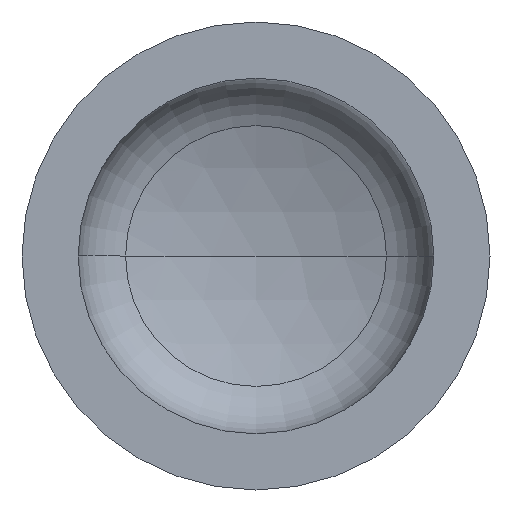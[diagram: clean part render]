
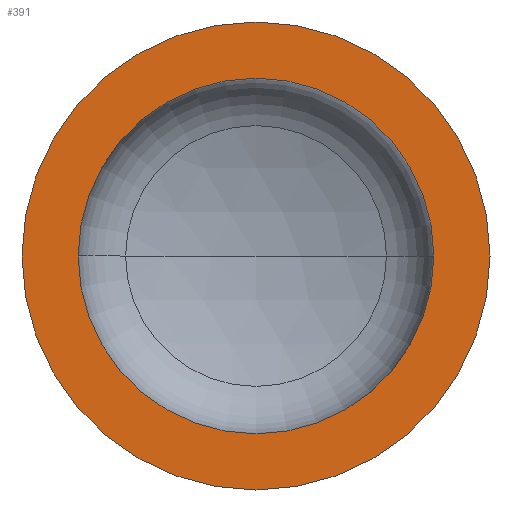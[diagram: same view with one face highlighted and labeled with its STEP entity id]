
A CAD part, front view. The second image highlights one B-rep face of the part: STEP entity #391.
In plain terms, the highlighted planar face has unit normal (0, -1, 0).
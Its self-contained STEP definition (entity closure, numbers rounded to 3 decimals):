
#3 = ORIENTED_EDGE ( 'NONE', *, *, #352, .F. ) ;
#6 = AXIS2_PLACEMENT_3D ( 'NONE', #357, #218, #306 ) ;
#10 = EDGE_LOOP ( 'NONE', ( #95, #48 ) ) ;
#21 = AXIS2_PLACEMENT_3D ( 'NONE', #299, #237, #158 ) ;
#22 = VERTEX_POINT ( 'NONE', #365 ) ;
#37 = ORIENTED_EDGE ( 'NONE', *, *, #122, .F. ) ;
#48 = ORIENTED_EDGE ( 'NONE', *, *, #119, .T. ) ;
#52 = EDGE_LOOP ( 'NONE', ( #37, #3 ) ) ;
#60 = CIRCLE ( 'NONE', #6, 450. ) ;
#71 = VERTEX_POINT ( 'NONE', #250 ) ;
#89 = VERTEX_POINT ( 'NONE', #235 ) ;
#95 = ORIENTED_EDGE ( 'NONE', *, *, #384, .T. ) ;
#99 = AXIS2_PLACEMENT_3D ( 'NONE', #351, #350, #345 ) ;
#103 = AXIS2_PLACEMENT_3D ( 'NONE', #205, #207, #341 ) ;
#116 = VERTEX_POINT ( 'NONE', #331 ) ;
#119 = EDGE_CURVE ( 'NONE', #116, #22, #313, .T. ) ;
#122 = EDGE_CURVE ( 'NONE', #71, #89, #257, .T. ) ;
#158 = DIRECTION ( 'NONE',  ( 1., 0., 0. ) ) ;
#168 = DIRECTION ( 'NONE',  ( 0., 1., 0. ) ) ;
#205 = CARTESIAN_POINT ( 'NONE',  ( 0., 0., 0. ) ) ;
#207 = DIRECTION ( 'NONE',  ( 0., -1., 0. ) ) ;
#218 = DIRECTION ( 'NONE',  ( 0., -1., 0. ) ) ;
#235 = CARTESIAN_POINT ( 'NONE',  ( -342., 0., 0. ) ) ;
#237 = DIRECTION ( 'NONE',  ( 0., -1., 0. ) ) ;
#250 = CARTESIAN_POINT ( 'NONE',  ( 342., 0., 0. ) ) ;
#254 = FACE_OUTER_BOUND ( 'NONE', #10, .T. ) ;
#257 = CIRCLE ( 'NONE', #99, 342. ) ;
#258 = FACE_BOUND ( 'NONE', #52, .T. ) ;
#279 = PLANE ( 'NONE',  #317 ) ;
#299 = CARTESIAN_POINT ( 'NONE',  ( 0., 0., 0. ) ) ;
#306 = DIRECTION ( 'NONE',  ( 1., 0., 0. ) ) ;
#313 = CIRCLE ( 'NONE', #103, 450. ) ;
#317 = AXIS2_PLACEMENT_3D ( 'NONE', #397, #168, #329 ) ;
#329 = DIRECTION ( 'NONE',  ( -1., 0., 0. ) ) ;
#331 = CARTESIAN_POINT ( 'NONE',  ( -450., 0., 0. ) ) ;
#341 = DIRECTION ( 'NONE',  ( 1., 0., 0. ) ) ;
#345 = DIRECTION ( 'NONE',  ( 1., 0., 0. ) ) ;
#350 = DIRECTION ( 'NONE',  ( 0., -1., 0. ) ) ;
#351 = CARTESIAN_POINT ( 'NONE',  ( 0., 0., 0. ) ) ;
#352 = EDGE_CURVE ( 'NONE', #89, #71, #379, .T. ) ;
#357 = CARTESIAN_POINT ( 'NONE',  ( 0., 0., 0. ) ) ;
#365 = CARTESIAN_POINT ( 'NONE',  ( 450., 0., 0. ) ) ;
#379 = CIRCLE ( 'NONE', #21, 342. ) ;
#384 = EDGE_CURVE ( 'NONE', #22, #116, #60, .T. ) ;
#391 = ADVANCED_FACE ( 'NONE', ( #258, #254 ), #279, .F. ) ;
#397 = CARTESIAN_POINT ( 'NONE',  ( -450., 0., 0. ) ) ;
